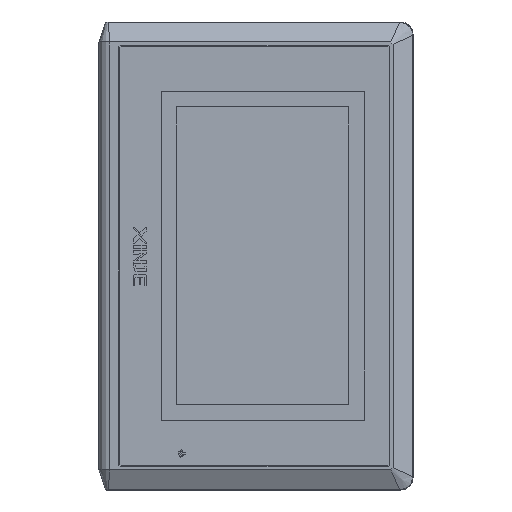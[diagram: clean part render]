
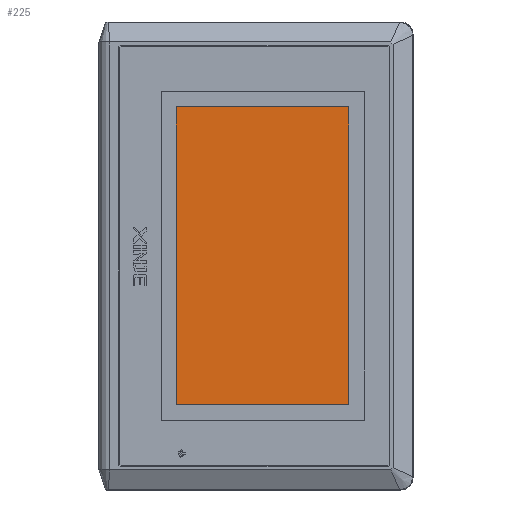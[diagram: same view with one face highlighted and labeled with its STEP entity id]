
A CAD part, top view. The second image highlights one B-rep face of the part: STEP entity #225.
In plain terms, the highlighted planar face has unit normal (0, 0, 1).
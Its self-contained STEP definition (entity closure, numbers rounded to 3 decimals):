
#225=ADVANCED_FACE('',(#539),#14810,.T.);
#539=FACE_OUTER_BOUND('',#875,.T.);
#875=EDGE_LOOP('',(#1899,#1900,#1901,#1902));
#1899=ORIENTED_EDGE('',*,*,#3165,.F.);
#1900=ORIENTED_EDGE('',*,*,#3169,.F.);
#1901=ORIENTED_EDGE('',*,*,#3172,.F.);
#1902=ORIENTED_EDGE('',*,*,#3174,.F.);
#3165=EDGE_CURVE('',#3870,#3871,#14144,.T.);
#3169=EDGE_CURVE('',#3873,#3870,#14148,.T.);
#3172=EDGE_CURVE('',#3875,#3873,#14151,.T.);
#3174=EDGE_CURVE('',#3871,#3875,#14153,.T.);
#3870=VERTEX_POINT('',#41739);
#3871=VERTEX_POINT('',#41740);
#3873=VERTEX_POINT('',#41742);
#3875=VERTEX_POINT('',#41744);
#14144=B_SPLINE_CURVE_WITH_KNOTS('',3,(#41751,#41752,#41753,#41754),
 .UNSPECIFIED.,.F.,.F.,(4,4),(0.75,1.),.UNSPECIFIED.);
#14148=B_SPLINE_CURVE_WITH_KNOTS('',3,(#41763,#41764,#41765,#41766),
 .UNSPECIFIED.,.F.,.F.,(4,4),(0.5,0.75),.UNSPECIFIED.);
#14151=B_SPLINE_CURVE_WITH_KNOTS('',3,(#41773,#41774,#41775,#41776),
 .UNSPECIFIED.,.F.,.F.,(4,4),(0.25,0.5),.UNSPECIFIED.);
#14153=B_SPLINE_CURVE_WITH_KNOTS('',3,(#41781,#41782,#41783,#41784),
 .UNSPECIFIED.,.F.,.F.,(4,4),(0.,0.25),.UNSPECIFIED.);
#14810=PLANE('',#15220);
#15220=AXIS2_PLACEMENT_3D('',#41736,#15614,$);
#15614=DIRECTION('',(0.,0.,1.));
#41736=CARTESIAN_POINT('',(-32.217,-58.737,6.));
#41739=CARTESIAN_POINT('',(-25.85,48.4,6.));
#41740=CARTESIAN_POINT('',(30.15,48.4,6.));
#41742=CARTESIAN_POINT('',(-25.85,-48.3,6.));
#41744=CARTESIAN_POINT('',(30.15,-48.3,6.));
#41751=CARTESIAN_POINT('',(-25.85,48.4,6.));
#41752=CARTESIAN_POINT('',(-25.85,48.4,6.));
#41753=CARTESIAN_POINT('',(30.15,48.4,6.));
#41754=CARTESIAN_POINT('',(30.15,48.4,6.));
#41763=CARTESIAN_POINT('',(-25.85,-48.3,6.));
#41764=CARTESIAN_POINT('',(-25.85,-48.3,6.));
#41765=CARTESIAN_POINT('',(-25.85,48.4,6.));
#41766=CARTESIAN_POINT('',(-25.85,48.4,6.));
#41773=CARTESIAN_POINT('',(30.15,-48.3,6.));
#41774=CARTESIAN_POINT('',(30.15,-48.3,6.));
#41775=CARTESIAN_POINT('',(-25.85,-48.3,6.));
#41776=CARTESIAN_POINT('',(-25.85,-48.3,6.));
#41781=CARTESIAN_POINT('',(30.15,48.4,6.));
#41782=CARTESIAN_POINT('',(30.15,48.4,6.));
#41783=CARTESIAN_POINT('',(30.15,-48.3,6.));
#41784=CARTESIAN_POINT('',(30.15,-48.3,6.));
